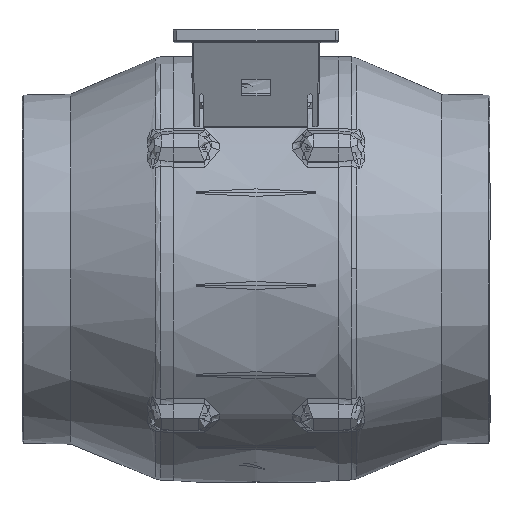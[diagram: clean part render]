
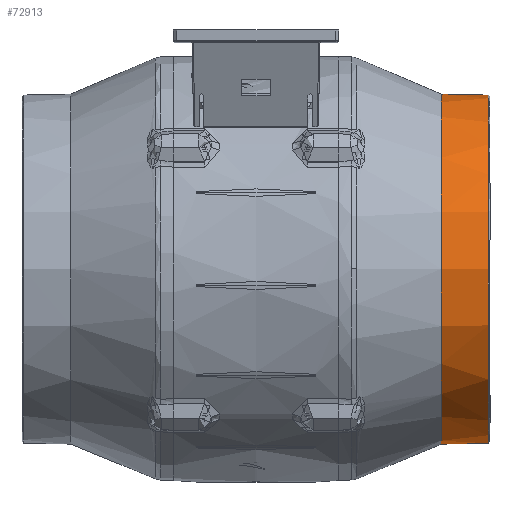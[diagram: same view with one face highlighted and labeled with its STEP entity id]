
A CAD part, top view. The second image highlights one B-rep face of the part: STEP entity #72913.
In plain terms, the highlighted free-form (B-spline) face has degree [2, 1] with [9, 2] control points.
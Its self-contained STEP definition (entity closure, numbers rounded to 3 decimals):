
#71832 = CARTESIAN_POINT ('', (199.359, 0., 74.186));
#71833 = VERTEX_POINT ('', #71832);
#71839 = CARTESIAN_POINT ('', (199.359, 0., -74.186));
#71840 = VERTEX_POINT ('', #71839);
#71841 = CARTESIAN_POINT ('', (199.359, 0., -74.186));
#71842 = CARTESIAN_POINT ('', (199.359, 74.186, -74.186));
#71843 = CARTESIAN_POINT ('', (199.359, 74.186, 0.));
#71844 = CARTESIAN_POINT ('', (199.359, 74.186, 74.186));
#71845 = CARTESIAN_POINT ('', (199.359, 0., 74.186));
#71846 = (
   BOUNDED_CURVE ()
   B_SPLINE_CURVE (2, (#71841, #71842, #71843, #71844, #71845), .UNSPECIFIED., .F., .U.)
   B_SPLINE_CURVE_WITH_KNOTS ((3, 2, 3), (0., 90., 180.), .UNSPECIFIED.)
   CURVE ()
   GEOMETRIC_REPRESENTATION_ITEM ()
   RATIONAL_B_SPLINE_CURVE ((1., 0.707, 1., 0.707, 1.))
   REPRESENTATION_ITEM ('')
);
#71847 = EDGE_CURVE ('', #71840, #71833, #71846, .T.);
#71849 = CARTESIAN_POINT ('', (199.359, 0., 74.186));
#71850 = CARTESIAN_POINT ('', (199.359, -74.186, 74.186));
#71851 = CARTESIAN_POINT ('', (199.359, -74.186, 0.));
#71852 = CARTESIAN_POINT ('', (199.359, -74.186, -74.186));
#71853 = CARTESIAN_POINT ('', (199.359, 0., -74.186));
#71854 = (
   BOUNDED_CURVE ()
   B_SPLINE_CURVE (2, (#71849, #71850, #71851, #71852, #71853), .UNSPECIFIED., .F., .U.)
   B_SPLINE_CURVE_WITH_KNOTS ((3, 2, 3), (180., 270., 360.), .UNSPECIFIED.)
   CURVE ()
   GEOMETRIC_REPRESENTATION_ITEM ()
   RATIONAL_B_SPLINE_CURVE ((1., 0.707, 1., 0.707, 1.))
   REPRESENTATION_ITEM ('')
);
#71855 = EDGE_CURVE ('', #71833, #71840, #71854, .T.);
#72864 = CARTESIAN_POINT ('', (219.312, 0., -73.837));
#72865 = VERTEX_POINT ('', #72864);
#72866 = CARTESIAN_POINT ('', (199.359, 0., -74.186));
#72867 = CARTESIAN_POINT ('', (219.312, 0., -73.837));
#72868 = B_SPLINE_CURVE_WITH_KNOTS ('', 1, (#72866, #72867), .UNSPECIFIED., .F., .U., (2, 2), (0., 1.), .UNSPECIFIED.);
#72869 = EDGE_CURVE ('', #71840, #72865, #72868, .T.);
#72870 = ORIENTED_EDGE ('', *, *, #72869, .T.);
#72871 = CARTESIAN_POINT ('', (219.312, 0., 73.837));
#72872 = VERTEX_POINT ('', #72871);
#72873 = CARTESIAN_POINT ('', (219.312, 0., -73.837));
#72874 = CARTESIAN_POINT ('', (219.312, -73.837, -73.837));
#72875 = CARTESIAN_POINT ('', (219.312, -73.837, 0.));
#72876 = CARTESIAN_POINT ('', (219.312, -73.837, 73.837));
#72877 = CARTESIAN_POINT ('', (219.312, 0., 73.837));
#72878 = (
   BOUNDED_CURVE ()
   B_SPLINE_CURVE (2, (#72873, #72874, #72875, #72876, #72877), .UNSPECIFIED., .F., .U.)
   B_SPLINE_CURVE_WITH_KNOTS ((3, 2, 3), (180., 270., 360.), .UNSPECIFIED.)
   CURVE ()
   GEOMETRIC_REPRESENTATION_ITEM ()
   RATIONAL_B_SPLINE_CURVE ((1., 0.707, 1., 0.707, 1.))
   REPRESENTATION_ITEM ('')
);
#72879 = EDGE_CURVE ('', #72865, #72872, #72878, .T.);
#72880 = ORIENTED_EDGE ('', *, *, #72879, .T.);
#72881 = CARTESIAN_POINT ('', (219.312, 0., 73.837));
#72882 = CARTESIAN_POINT ('', (219.312, 73.837, 73.837));
#72883 = CARTESIAN_POINT ('', (219.312, 73.837, 0.));
#72884 = CARTESIAN_POINT ('', (219.312, 73.837, -73.837));
#72885 = CARTESIAN_POINT ('', (219.312, 0., -73.837));
#72886 = (
   BOUNDED_CURVE ()
   B_SPLINE_CURVE (2, (#72881, #72882, #72883, #72884, #72885), .UNSPECIFIED., .F., .U.)
   B_SPLINE_CURVE_WITH_KNOTS ((3, 2, 3), (0., 90., 180.), .UNSPECIFIED.)
   CURVE ()
   GEOMETRIC_REPRESENTATION_ITEM ()
   RATIONAL_B_SPLINE_CURVE ((1., 0.707, 1., 0.707, 1.))
   REPRESENTATION_ITEM ('')
);
#72887 = EDGE_CURVE ('', #72872, #72865, #72886, .T.);
#72888 = ORIENTED_EDGE ('', *, *, #72887, .T.);
#72889 = ORIENTED_EDGE ('', *, *, #72869, .F.);
#72890 = ORIENTED_EDGE ('', *, *, #71847, .T.);
#72891 = ORIENTED_EDGE ('', *, *, #71855, .T.);
#72892 = EDGE_LOOP ('', (#72870, #72880, #72888, #72889, #72890, #72891));
#72893 = FACE_OUTER_BOUND ('', #72892, .T.);
#72894 = CARTESIAN_POINT ('', (219.313, 0., -73.837));
#72895 = CARTESIAN_POINT ('', (199.358, 0., -74.186));
#72896 = CARTESIAN_POINT ('', (219.313, -73.837, -73.837));
#72897 = CARTESIAN_POINT ('', (199.358, -74.186, -74.186));
#72898 = CARTESIAN_POINT ('', (219.313, -73.837, 0.));
#72899 = CARTESIAN_POINT ('', (199.358, -74.186, 0.));
#72900 = CARTESIAN_POINT ('', (219.313, -73.837, 73.837));
#72901 = CARTESIAN_POINT ('', (199.358, -74.186, 74.186));
#72902 = CARTESIAN_POINT ('', (219.313, 0., 73.837));
#72903 = CARTESIAN_POINT ('', (199.358, 0., 74.186));
#72904 = CARTESIAN_POINT ('', (219.313, 73.837, 73.837));
#72905 = CARTESIAN_POINT ('', (199.358, 74.186, 74.186));
#72906 = CARTESIAN_POINT ('', (219.313, 73.837, 0.));
#72907 = CARTESIAN_POINT ('', (199.358, 74.186, 0.));
#72908 = CARTESIAN_POINT ('', (219.313, 73.837, -73.837));
#72909 = CARTESIAN_POINT ('', (199.358, 74.186, -74.186));
#72910 = CARTESIAN_POINT ('', (219.313, 0., -73.837));
#72911 = CARTESIAN_POINT ('', (199.358, 0., -74.186));
#72912 = (
   BOUNDED_SURFACE ()
   B_SPLINE_SURFACE (2, 1, ((#72894, #72895), (#72896, #72897), (#72898, #72899), (#72900, #72901), (#72902, #72903), (#72904, #72905), (#72906, #72907), (#72908, #72909), (#72910, #72911)), .UNSPECIFIED., .T., .F., .U.)
   B_SPLINE_SURFACE_WITH_KNOTS ((3, 2, 2, 2, 3), (2, 2), (0., 0.25, 0.5, 0.75, 1.), (0., 1.), .UNSPECIFIED.)
   SURFACE ()
   GEOMETRIC_REPRESENTATION_ITEM ()
   RATIONAL_B_SPLINE_SURFACE (((1., 1.), (0.707, 0.707), (1., 1.), (0.707, 0.707), (1., 1.), (0.707, 0.707), (1., 1.), (0.707, 0.707), (1., 1.)))
   REPRESENTATION_ITEM ('')
);
#72913 = ADVANCED_FACE ('', (#72893), #72912, .T.);
